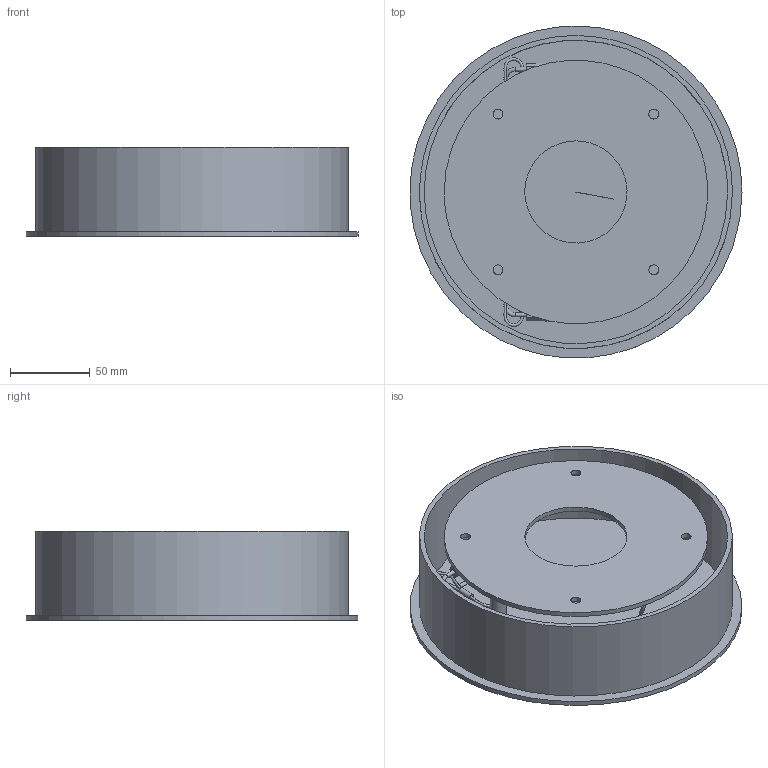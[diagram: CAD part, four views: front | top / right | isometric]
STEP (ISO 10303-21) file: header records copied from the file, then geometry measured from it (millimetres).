
FILE_DESCRIPTION(/* description */ (''),/* implementation_level */ '2;1');
FILE_NAME(/* name */ 'SkLO_Round_Canopy_8_MCR08_3D',/* time_stamp */ '2024-10-18T23:00:14+02:00',/* author */ (''),/* organization */ (''),/* preprocessor_version */ 'ST-DEVELOPER v16.5',/* originating_system */ 'Rhino 7.34',/* authorisation */ '');
FILE_SCHEMA (('CONFIG_CONTROL_DESIGN'));
Length unit declared in the file: millimetre
Products named in the file (1): Document
Bounding box: 207.93 x 207.82 x 56.3 mm (x, y, z)
Volume: 262952.5 mm3; surface area: 185183.5 mm2
Topology: 14 solids, 14 shells, 109 faces, 247 edges, 162 vertices
Faces by surface type: plane 46, cylinder 39, bspline 24
Full cylindrical faces by diameter (mm): 2.4 x6, 3 x8, 3.5 x2, 5.249 x2, 6 x4, 6.2 x6, 10 x2, 64 x1, 165 x1, 190 x1, 196 x1, 208 x1
Entity records: 7870 total; most frequent: CARTESIAN_POINT 6164, ORIENTED_EDGE 474, EDGE_CURVE 237, VERTEX_POINT 154, EDGE_LOOP 133, ADVANCED_FACE 109, FACE_OUTER_BOUND 109, DIRECTION 91
